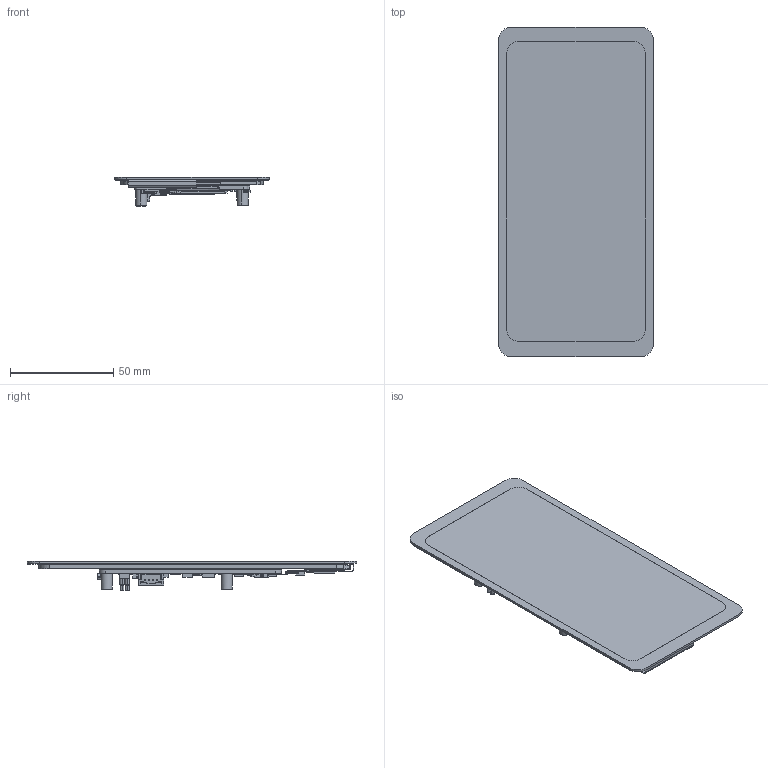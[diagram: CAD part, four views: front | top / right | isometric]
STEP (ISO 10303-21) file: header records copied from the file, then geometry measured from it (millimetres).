
FILE_DESCRIPTION((''),'2;1');
FILE_NAME('6_25INCH-DSI-LCD_B_ASM','2026-07-02T18:01:53',('ag'),(''),'CREO PARAMETRIC BY PTC INC, 2021063','CREO PARAMETRIC BY PTC INC, 2021063','');
FILE_SCHEMA(('CONFIG_CONTROL_DESIGN','SHAPE_APPEARANCE_LAYERS_GROUPS'));
Products named in the file (206): 6_25INCH-LX625HDK40186-V0_1; 6_25INCH-720X1560-TP_2; 6_25INCH-LCD_TP_ASM_1_ASM; TR_FASTENINGS_LTD-M2_5X8MM_X_1; 1MM-15PIN-FPC-CONNECTOR_1; PIN-4P-2_54-2_2X8_5MM_1; HP2_0-4PIN-SMT-HORIZONTAL_1; SWITCH-TS24CA_1; SWITCH-SMT-TDA04_1; OPEN_CASCADE_STEP_TRANSLATOR_7_; BOARD_ASM_1_ASM; EXTRUDED-2795_1; 6267676416_ASM_1_ASM; EXTRUDED-2992_1; 6267676576_ASM_1_ASM; R22_ASM_1_ASM; R15_ASM_1_ASM; R14_ASM_1_ASM; R13_ASM_1_ASM; R12_ASM_1_ASM; R11_ASM_1_ASM; EXTRUDED-3445_1; 6267677056_ASM_1_ASM; EXTRUDED-3642_1; 6267677216_ASM_1_ASM; R1_ASM_1_ASM; R69_ASM_1_ASM; R68_ASM_1_ASM; EXTRUDED-4164_2; 6267024992_ASM_1_ASM; U19_ASM_1_ASM; EXTRUDED-4379_1; 6267022992_ASM_1_ASM; U1_ASM_1_ASM; R9_ASM_1_ASM; R8_ASM_1_ASM; C51_ASM_1_ASM; R28_ASM_1_ASM; USER_LIBRARY-LED_0603_R_PO-4794; USER_LIBRARY-LED_0603_R_PAD004_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
Assembly tree (522 placements, depth 7):
  6_25INCH-DSI-LCD_B_ASM
    6_25INCH-LCD_TP_ASM_1_ASM
      6_25INCH-LX625HDK40186-V0_1
      6_25INCH-720X1560-TP_2
    5INCH-DSI-LCD_PCBA-20240621_ASM_ASM
      TR_FASTENINGS_LTD-M2_5X8MM_X_1  x4
      1MM-15PIN-FPC-CONNECTOR_1
      PIN-4P-2_54-2_2X8_5MM_1
      HP2_0-4PIN-SMT-HORIZONTAL_1
      SWITCH-TS24CA_1  x3
      SWITCH-SMT-TDA04_1
      5-6_25IN_DSI_LCD_PCBA-V0-240703_ASM
        PCB_ASM_2_ASM
          BOARD_ASM_1_ASM
            OPEN_CASCADE_STEP_TRANSLATOR_7_
          R22_ASM_1_ASM
            6267676416_ASM_1_ASM  x2
              EXTRUDED-2795_1
            6267676576_ASM_1_ASM
              EXTRUDED-2992_1
          R15_ASM_1_ASM
            6267676576_ASM_1_ASM
              EXTRUDED-2992_1
            6267676416_ASM_1_ASM  x2
              EXTRUDED-2795_1
          R14_ASM_1_ASM
            6267676416_ASM_1_ASM  x2
              EXTRUDED-2795_1
            6267676576_ASM_1_ASM
              EXTRUDED-2992_1
          R13_ASM_1_ASM
            6267676576_ASM_1_ASM
              EXTRUDED-2992_1
            6267676416_ASM_1_ASM  x2
              EXTRUDED-2795_1
          R12_ASM_1_ASM
            6267676416_ASM_1_ASM  x2
              EXTRUDED-2795_1
            6267676576_ASM_1_ASM
              EXTRUDED-2992_1
          R11_ASM_1_ASM
            6267676576_ASM_1_ASM
              EXTRUDED-2992_1
            6267676416_ASM_1_ASM  x2
              EXTRUDED-2795_1
          R1_ASM_1_ASM
            6267677056_ASM_1_ASM  x2
              EXTRUDED-3445_1
            6267677216_ASM_1_ASM
              EXTRUDED-3642_1
          R69_ASM_1_ASM
            6267677216_ASM_1_ASM
              EXTRUDED-3642_1
            6267677056_ASM_1_ASM  x2
              EXTRUDED-3445_1
          R68_ASM_1_ASM
            6267677056_ASM_1_ASM  x2
              EXTRUDED-3445_1
            6267677216_ASM_1_ASM
              EXTRUDED-3642_1
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Bounding box: 74.7 x 159.18 x 14.32 mm (x, y, z)
Volume: 51043.3 mm3; surface area: 68931.2 mm2
Topology: 366 solids, 368 shells, 6431 faces, 16446 edges, 10804 vertices
Faces by surface type: plane 5470, cylinder 711, extrusion 117, cone 77, bspline 48, sphere 8
Entity records: 175213 total; most frequent: CARTESIAN_POINT 32460, DIRECTION 21721, ORIENTED_EDGE 21654, EDGE_CURVE 10828, PRESENTATION_STYLE_ASSIGNMENT 9595, STYLED_ITEM 9249, VECTOR 9189, LINE 9072
